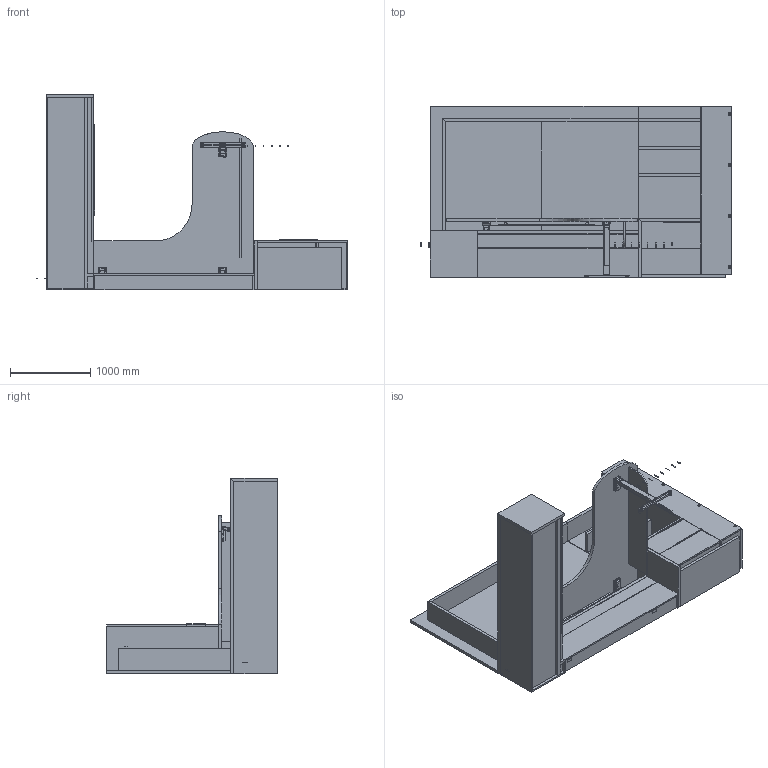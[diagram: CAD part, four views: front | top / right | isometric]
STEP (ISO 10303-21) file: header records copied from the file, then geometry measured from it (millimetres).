
FILE_DESCRIPTION(/* description */ ('','CAx-IF Rec.Pracs.---Representation and Presentation of Product Manufacturing Information (PMI)---4.0---2014-10-13'),/* implementation_level */ '2;1');
FILE_NAME(/* name */ 'PRIVATE OFFICE_FOUNDATION 3.stp',/* time_stamp */ '2024-12-08T10:41:39-05:00',/* author */ ('mbowman'),/* organization */ (''),/* preprocessor_version */ 'ST-DEVELOPER v19.2',/* originating_system */ 'Autodesk Inventor 2023',/* authorisation */ '');
FILE_SCHEMA (('AP242_MANAGED_MODEL_BASED_3D_ENGINEERING_MIM_LF { 1 0 10303 442 1 1 4 }'));
Products named in the file (46): FOUNDATION^PO3_OFFICE-SOLID ASSEMBLY; FOUNDATION^OFFICE 3_FF RIGHT-SOLID ASSEMBLY; JW PULL-18_25^STANDARD; FOUNDATION^OFFICE 3_FF RIGHT-PARTS SOLID; FOUNDATION^PO3_WARDROBE-ASSEMBLY; FOUNDATION^PO3_WARDROBE-LEFT END; FOUNDATION^PO3_WARDROBE-TOP; FOUNDATION^PO3_WARDROBE-RIGHT END; FOUNDATION^PO3_WARDROBE-BOTTOM; FOUNDATION^PO3_WARDROBE-BACK; FOUNDATION^PO3_WARDROBE-HAT SHELF; FOUNDATION^PO3_WARDROBE-SHOE SHELF; FOUNDATION^PO3_WARDROBE-DOOR; FullOverlay Hinge; FullOverlay Hinge_1; FullOverlay Hinge_2; FullOverlay Hinge_3; Can; Pin; Arm; ArmPin; Guide01; Guide02; Keeper; COAT ROD 13-34 - (H-254 ); COAT ROD CAP-(MM-115Z); JW PULL-9^STANDARD; FOUNDATION^PO2_WARDROBE PLINTH-SOLID; FOUNDATION^PO 3_WALL HUNG 3 SHELVES-PARTS SOLID; FOUNDATION^PO 3_WALL HUNG WORK WALL SHELF-PARTS SOLID; FOUNDATION^PO 3_WALL HUNG WORK WALL-PARTS SOLID; FOUNDATION^PO 3_WALL HUNG TACKBOARD-PARTS SOLID; FOUNDATION^PO2_CREDENZA-SOLID ASSEMBLY; FOUNDATION^PO2_CREDENZA-PARTS SOLID; JW PULL-22_25_STANDARD; FOUNDATION^PO3_WIRE WALL-PARTS SOLID; FOUNDATION^PO3_WIRE WALL-WORKSURFACE; dl5nc_without_bracket_STEP; dl5nc_without_bracket_STEP_1; LINAK^DL5-DL6 T FOOT (560mm)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
Assembly tree (81 placements, depth 4):
  FOUNDATION^PO3_OFFICE-SOLID ASSEMBLY
    FOUNDATION^OFFICE 3_FF RIGHT-SOLID ASSEMBLY
      JW PULL-18_25^STANDARD  x2
      FOUNDATION^OFFICE 3_FF RIGHT-PARTS SOLID
    FOUNDATION^PO3_WARDROBE-ASSEMBLY
      FOUNDATION^PO3_WARDROBE-LEFT END
      FOUNDATION^PO3_WARDROBE-TOP
      FOUNDATION^PO3_WARDROBE-RIGHT END
      FOUNDATION^PO3_WARDROBE-BOTTOM
      FOUNDATION^PO3_WARDROBE-BACK
      FOUNDATION^PO3_WARDROBE-HAT SHELF
      FOUNDATION^PO3_WARDROBE-SHOE SHELF
      FOUNDATION^PO3_WARDROBE-DOOR
      FullOverlay Hinge
        Can
        Pin
        Arm
        ArmPin  x2
        Guide01
        Guide02
        Keeper
      FullOverlay Hinge_1
        Can
        Pin
        Arm
        ArmPin  x2
        Guide01
        Guide02
        Keeper
      FullOverlay Hinge_2
        Can
        Pin
        Arm
        ArmPin  x2
        Guide01
        Guide02
        Keeper
      FullOverlay Hinge_3
        Can
        Pin
        Arm
        ArmPin  x2
        Guide01
        Guide02
        Keeper
      COAT ROD 13-34 - (H-254 )
      COAT ROD CAP-(MM-115Z)  x2
      JW PULL-9^STANDARD
    FOUNDATION^PO2_WARDROBE PLINTH-SOLID
    FOUNDATION^PO 3_WALL HUNG 3 SHELVES-PARTS SOLID
    FOUNDATION^PO 3_WALL HUNG WORK WALL SHELF-PARTS SOLID
    FOUNDATION^PO 3_WALL HUNG WORK WALL-PARTS SOLID
    FOUNDATION^PO 3_WALL HUNG TACKBOARD-PARTS SOLID  x2
    FOUNDATION^PO2_CREDENZA-SOLID ASSEMBLY
      FOUNDATION^PO2_CREDENZA-PARTS SOLID
      JW PULL-22_25_STANDARD  x4
    FOUNDATION^PO3_WIRE WALL-PARTS SOLID
    FOUNDATION^PO3_WIRE WALL-WORKSURFACE
    dl5nc_without_bracket_STEP
      DL5NC_OP
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Bounding box: 3875.19 x 2133.6 x 2438.4 mm (x, y, z)
Volume: 676599707.6 mm3; surface area: 59474323.2 mm2
Topology: 111 solids, 171 shells, 6684 faces, 16594 edges, 10282 vertices
Faces by surface type: plane 3568, cylinder 2247, torus 362, bspline 251, cone 188, sphere 68
Full cylindrical faces by diameter (mm): 1.587 x6, 2 x76, 4.2 x8, 4.6 x6, 5 x82, 5.3 x18, 5.5 x6, 5.6 x4, 6.8 x8, 8 x6, 8.001 x4, 8.202 x60, 10 x2, 12 x2, 20 x2, 22 x2, 30 x2, 32 x2, 35 x4, 38.1 x2, 40 x2
Entity records: 83237 total; most frequent: CARTESIAN_POINT 19363, DIRECTION 13118, ORIENTED_EDGE 11676, EDGE_CURVE 5838, AXIS2_PLACEMENT_3D 4670, LINE 3778, VECTOR 3778, VERTEX_POINT 3679
